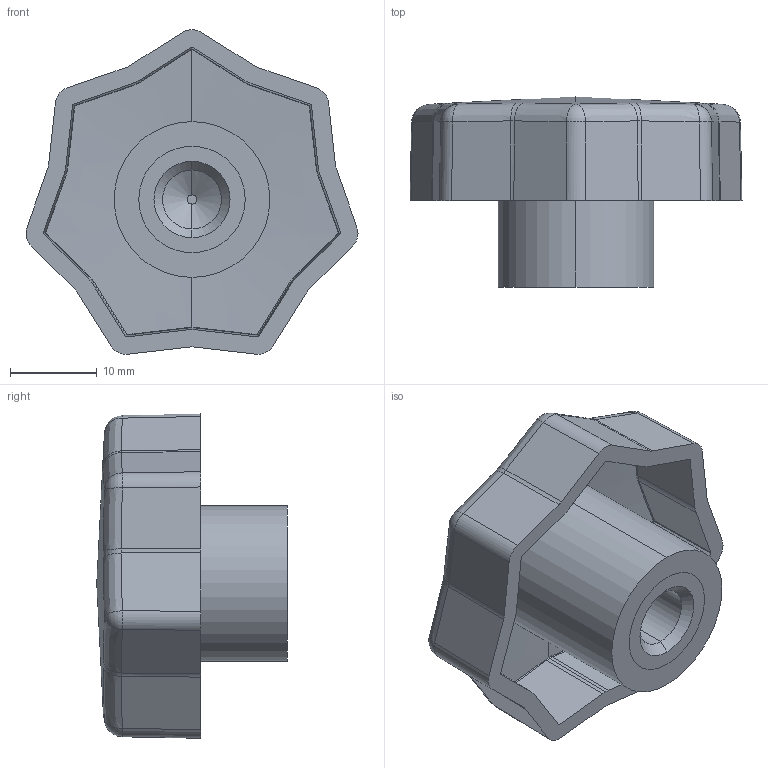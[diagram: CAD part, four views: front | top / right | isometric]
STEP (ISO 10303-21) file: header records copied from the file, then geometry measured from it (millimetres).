
FILE_DESCRIPTION (( 'STEP AP203' ), '1' );
FILE_NAME ('AP-1020-40-M8.STEP', '2015-11-23T10:09:46', ( '' ), ( '' ), 'SwSTEP 2.0', 'SolidWorks 2014', '' );
FILE_SCHEMA (( 'CONFIG_CONTROL_DESIGN' ));
Length unit declared in the file: millimetre
Products named in the file (1): AP-1020-40-M8
Bounding box: 38.35 x 22 x 37.49 mm (x, y, z)
Surface area: 7966.1 mm2 (no closed solid volume)
Topology: 0 solids, 3 shells, 164 faces, 378 edges, 224 vertices
Faces by surface type: cylinder 58, bspline 42, plane 40, sphere 14, cone 10
Entity records: 4993 total; most frequent: CARTESIAN_POINT 1597, ORIENTED_EDGE 746, DIRECTION 622, EDGE_CURVE 374, AXIS2_PLACEMENT_3D 249, VERTEX_POINT 224, EDGE_LOOP 175, ADVANCED_FACE 164
